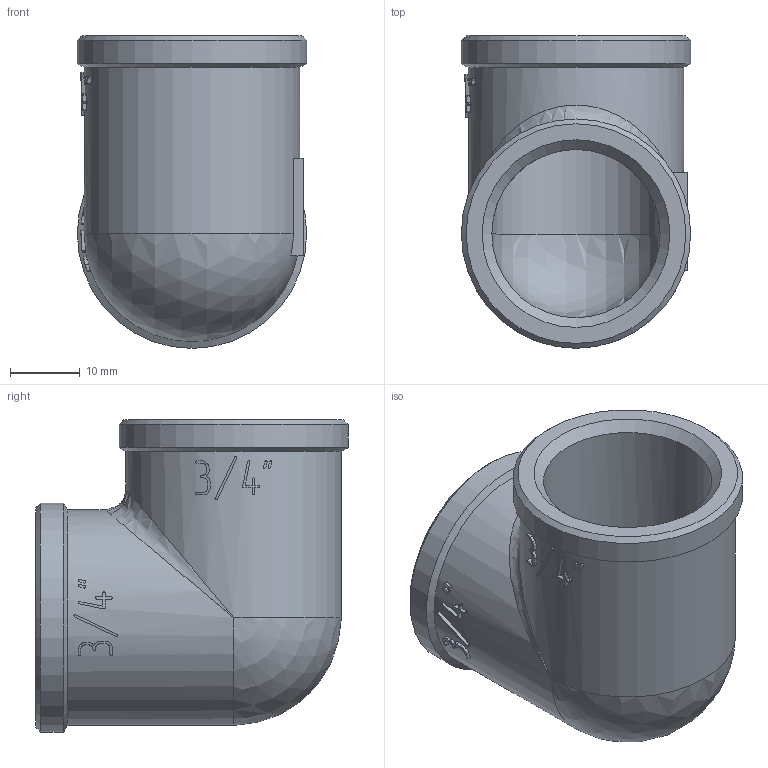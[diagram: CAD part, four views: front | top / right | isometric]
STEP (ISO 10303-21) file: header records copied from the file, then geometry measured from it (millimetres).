
FILE_DESCRIPTION(('STEP AP203'), '1');
FILE_NAME('ÂÐ.752213.002 - VTr.090.N.0005 - Ôèò. ðåçüá. óãîë', '2024-06-19T11:41:28', ('Boss'), (''), 'C3D Converter', 'C3D Toolkit', '');
FILE_SCHEMA(('CONFIG_CONTROL_DESIGN'));
Length unit declared in the file: millimetre
Products named in the file (1): ВР.752213.002
Bounding box: 33 x 45 x 45 mm (x, y, z)
Volume: 17079.3 mm3; surface area: 10444.3 mm2
Topology: 1 solids, 1 shells, 253 faces, 714 edges, 471 vertices
Faces by surface type: extrusion 138, plane 89, cylinder 17, cone 6, sphere 2, bspline 1
Full cylindrical faces by diameter (mm): 24.2 x2, 31 x2, 33 x2
Entity records: 11256 total; most frequent: CARTESIAN_POINT 5462, ORIENTED_EDGE 1396, DIRECTION 772, EDGE_CURVE 698, VERTEX_POINT 471, VECTOR 420, B_SPLINE_CURVE_WITH_KNOTS 419, LINE 282
